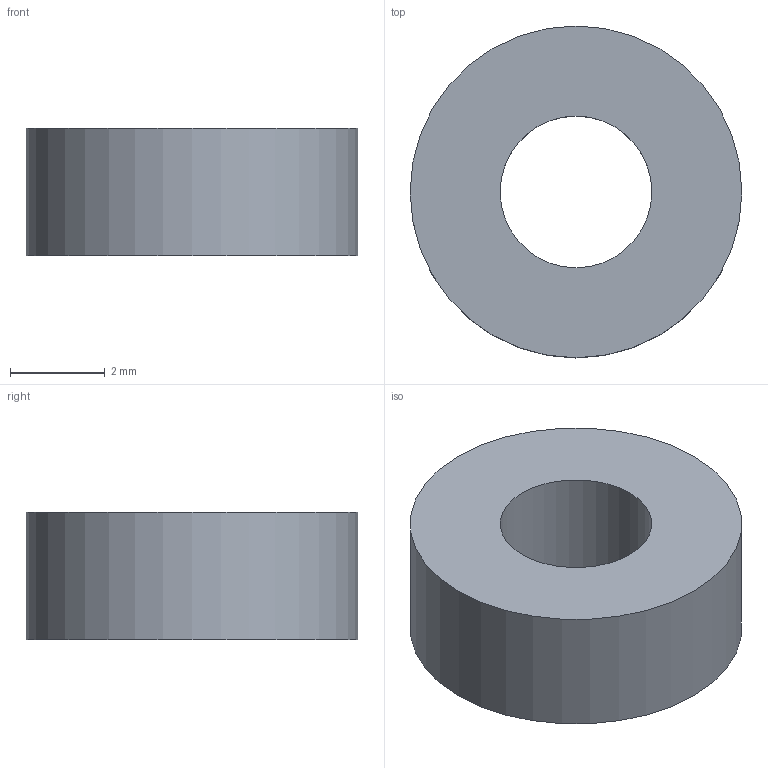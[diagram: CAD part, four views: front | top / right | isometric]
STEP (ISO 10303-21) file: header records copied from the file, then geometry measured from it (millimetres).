
FILE_DESCRIPTION(('Open CASCADE Model'),'2;1');
FILE_NAME('Open CASCADE Shape Model','2026-10-12T22:10:18',('Author'),( 'Open CASCADE'),'Open CASCADE STEP processor 7.9','Open CASCADE 7.9' ,'Unknown');
FILE_SCHEMA(('AUTOMOTIVE_DESIGN { 1 0 10303 214 1 1 1 1 }'));
Length unit declared in the file: millimetre
Products named in the file (1): Open CASCADE STEP translator 7.9 22
Bounding box: 7 x 7 x 2.7 mm (x, y, z)
Volume: 82.2 mm3; surface area: 147.4 mm2
Topology: 1 solids, 1 shells, 4 faces, 6 edges, 4 vertices
Faces by surface type: cylinder 2, plane 2
Full cylindrical faces by diameter (mm): 3.2 x1, 7 x1
Entity records: 186 total; most frequent: DIRECTION 32, CARTESIAN_POINT 27, ORIENTED_EDGE 12, PCURVE 12, DEFINITIONAL_REPRESENTATION 12, LINE 10, VECTOR 10, AXIS2_PLACEMENT_3D 9
